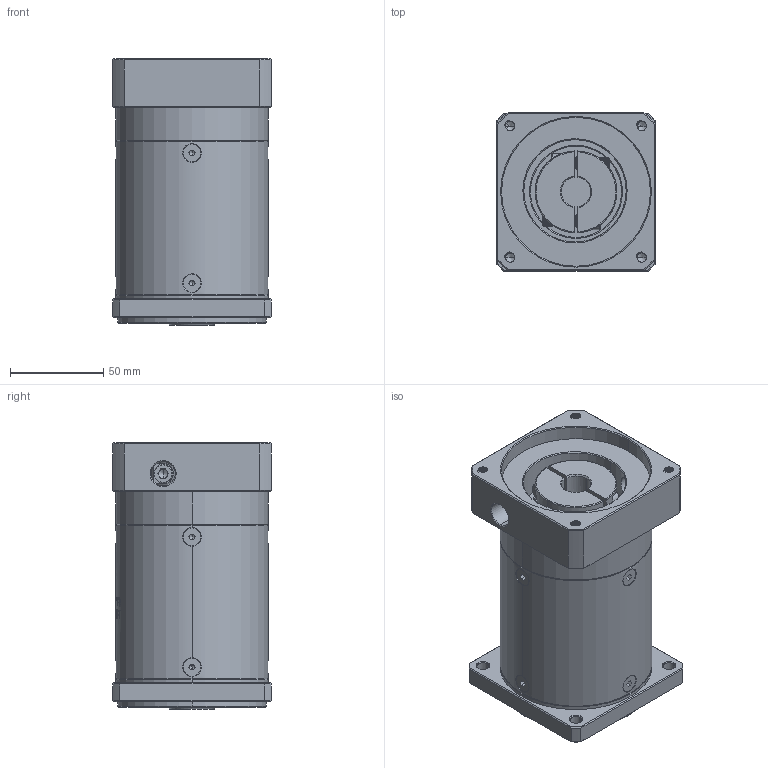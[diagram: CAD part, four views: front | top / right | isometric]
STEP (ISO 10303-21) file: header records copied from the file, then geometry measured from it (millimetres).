
FILE_DESCRIPTION (( 'STEP AP214' ), '1' );
FILE_NAME ('ZF080-K15-L3-P2-16-80-100-M6.step', '2023-08-19T05:37:08', ( '' ), ( '' ), 'SwSTEP 2.0', 'SolidWorks 2016', '' );
FILE_SCHEMA (( 'AUTOMOTIVE_DESIGN' ));
Length unit declared in the file: millimetre
Products named in the file (1): ZF080-K15-L3-P2-16-80-100-M6
Bounding box: 85 x 85 x 143 mm (x, y, z)
Volume: 724460.2 mm3; surface area: 97860.7 mm2
Topology: 13 solids, 13 shells, 2207 faces, 5786 edges, 3677 vertices
Faces by surface type: plane 1066, bspline 390, cylinder 384, cone 332, torus 35
Entity records: 117204 total; most frequent: CARTESIAN_POINT 43597, ORIENTED_EDGE 11516, DIRECTION 8517, EDGE_CURVE 5758, VERTEX_POINT 3677, VECTOR 3071, LINE 3071, AXIS2_PLACEMENT_3D 2723
